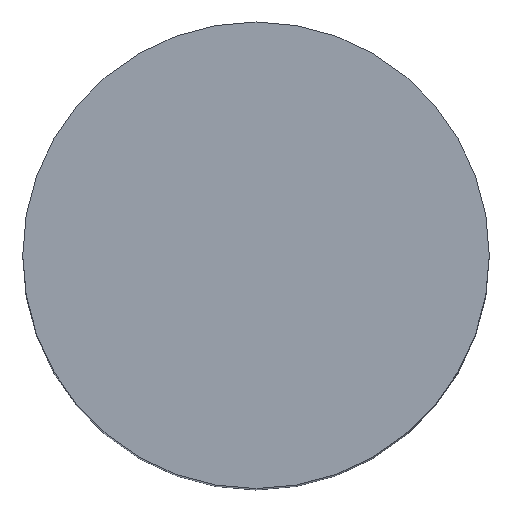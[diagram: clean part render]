
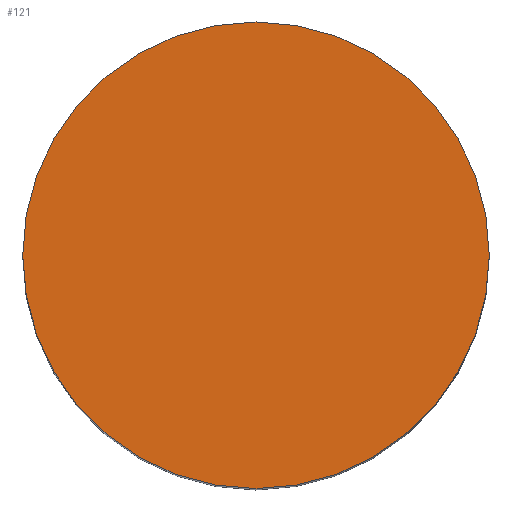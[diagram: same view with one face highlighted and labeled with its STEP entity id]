
A CAD part, top view. The second image highlights one B-rep face of the part: STEP entity #121.
In plain terms, the highlighted planar face has unit normal (0, 0, 1).
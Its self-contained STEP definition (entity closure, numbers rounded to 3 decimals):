
#48=CARTESIAN_POINT('',(0.,0.,11.));
#49=DIRECTION('',(0.,0.,1.));
#50=DIRECTION('',(1.,0.,0.));
#51=AXIS2_PLACEMENT_3D('',#48,#49,#50);
#56=CARTESIAN_POINT('',(0.,0.,11.));
#57=DIRECTION('',(0.,0.,1.));
#58=DIRECTION('',(-1.,0.,0.));
#59=AXIS2_PLACEMENT_3D('',#56,#57,#58);
#64=CARTESIAN_POINT('',(-3.15,0.,11.));
#66=VERTEX_POINT('',#64);
#70=CARTESIAN_POINT('',(3.15,0.,11.));
#71=VERTEX_POINT('',#70);
#112=CARTESIAN_POINT('',(0.,0.,11.));
#113=DIRECTION('',(0.,0.,1.));
#114=DIRECTION('',(1.,0.,0.));
#115=AXIS2_PLACEMENT_3D('',#112,#113,#114);
#116=PLANE('',#115);
#117=ORIENTED_EDGE('',*,*,#97,.F.);
#118=ORIENTED_EDGE('',*,*,#79,.F.);
#119=EDGE_LOOP('',(#117,#118));
#120=FACE_OUTER_BOUND('',#119,.F.);
#52=CIRCLE('',#51,3.15);
#60=CIRCLE('',#59,3.15);
#79=EDGE_CURVE('',#66,#71,#60,.T.);
#97=EDGE_CURVE('',#71,#66,#52,.T.);
#121=ADVANCED_FACE('',(#120),#116,.T.);
